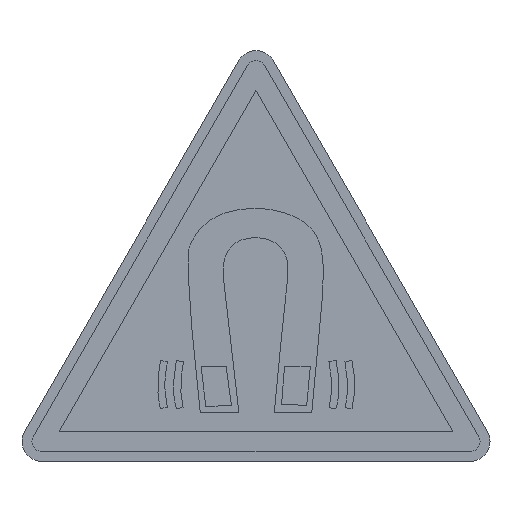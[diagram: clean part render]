
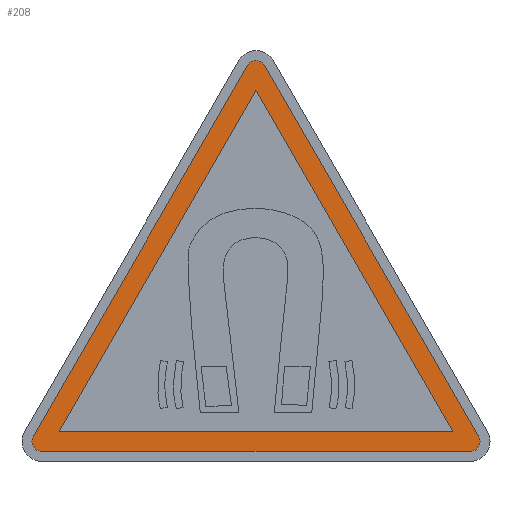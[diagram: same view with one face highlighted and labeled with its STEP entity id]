
A CAD part, top view. The second image highlights one B-rep face of the part: STEP entity #208.
In plain terms, the highlighted planar face has unit normal (0, 0, 1).
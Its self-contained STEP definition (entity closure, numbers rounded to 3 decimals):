
#84 = CARTESIAN_POINT ( 'NONE',  ( -0.866, 39.801, 0.22 ) ) ;
#89 = VERTEX_POINT ( 'NONE', #2185 ) ;
#130 = CARTESIAN_POINT ( 'NONE',  ( -21.536, 1., 0.22 ) ) ;
#150 = VERTEX_POINT ( 'NONE', #776 ) ;
#178 = CARTESIAN_POINT ( 'NONE',  ( 21.536, 2., 0.22 ) ) ;
#191 = VECTOR ( 'NONE', #410, 1000. ) ;
#208 = ADVANCED_FACE ( 'NONE', ( #1765, #1394 ), #612, .T. ) ;
#220 = DIRECTION ( 'NONE',  ( -0.5, 0.866, 0. ) ) ;
#301 = EDGE_CURVE ( 'NONE', #1290, #150, #506, .T. ) ;
#304 = ORIENTED_EDGE ( 'NONE', *, *, #1013, .F. ) ;
#317 = CARTESIAN_POINT ( 'NONE',  ( 22.402, 2.5, 0.22 ) ) ;
#331 = CIRCLE ( 'NONE', #1168, 1. ) ;
#410 = DIRECTION ( 'NONE',  ( -0.5, 0.866, 0. ) ) ;
#459 = CARTESIAN_POINT ( 'NONE',  ( 0., 37.301, 0.22 ) ) ;
#474 = LINE ( 'NONE', #130, #475 ) ;
#475 = VECTOR ( 'NONE', #2493, 1000. ) ;
#485 = CARTESIAN_POINT ( 'NONE',  ( -21.536, 1., 0.22 ) ) ;
#506 = LINE ( 'NONE', #1690, #1866 ) ;
#551 = ORIENTED_EDGE ( 'NONE', *, *, #2012, .T. ) ;
#601 = VERTEX_POINT ( 'NONE', #485 ) ;
#612 = PLANE ( 'NONE',  #2077 ) ;
#635 = DIRECTION ( 'NONE',  ( -0.5, -0.866, 0. ) ) ;
#639 = CARTESIAN_POINT ( 'NONE',  ( 0., 39.301, 0.22 ) ) ;
#707 = AXIS2_PLACEMENT_3D ( 'NONE', #178, #980, #2556 ) ;
#752 = DIRECTION ( 'NONE',  ( 0., 0., 1. ) ) ;
#776 = CARTESIAN_POINT ( 'NONE',  ( -22.402, 2.5, 0.22 ) ) ;
#780 = CIRCLE ( 'NONE', #2397, 1. ) ;
#786 = EDGE_CURVE ( 'NONE', #1881, #1290, #1547, .T. ) ;
#793 = CARTESIAN_POINT ( 'NONE',  ( 0.866, 39.801, 0.22 ) ) ;
#815 = ORIENTED_EDGE ( 'NONE', *, *, #301, .T. ) ;
#824 = DIRECTION ( 'NONE',  ( 0., 0., 1. ) ) ;
#874 = VERTEX_POINT ( 'NONE', #317 ) ;
#947 = EDGE_LOOP ( 'NONE', ( #2134, #815, #1308, #2504, #551, #1818, #1175 ) ) ;
#980 = DIRECTION ( 'NONE',  ( 0., 0., 1. ) ) ;
#994 = EDGE_CURVE ( 'NONE', #874, #1881, #2029, .T. ) ;
#1013 = EDGE_CURVE ( 'NONE', #89, #2478, #2237, .T. ) ;
#1020 = EDGE_CURVE ( 'NONE', #2050, #89, #1803, .T. ) ;
#1021 = CARTESIAN_POINT ( 'NONE',  ( -21.536, 2., 0.22 ) ) ;
#1024 = DIRECTION ( 'NONE',  ( 1., 0., 0. ) ) ;
#1046 = CARTESIAN_POINT ( 'NONE',  ( -19.804, 3., 0.22 ) ) ;
#1108 = CARTESIAN_POINT ( 'NONE',  ( 21.536, 1., 0.22 ) ) ;
#1168 = AXIS2_PLACEMENT_3D ( 'NONE', #1021, #824, #1623 ) ;
#1175 = ORIENTED_EDGE ( 'NONE', *, *, #994, .T. ) ;
#1189 = VERTEX_POINT ( 'NONE', #1965 ) ;
#1245 = CARTESIAN_POINT ( 'NONE',  ( 22.402, 2.5, 0.22 ) ) ;
#1290 = VERTEX_POINT ( 'NONE', #84 ) ;
#1308 = ORIENTED_EDGE ( 'NONE', *, *, #2330, .T. ) ;
#1384 = DIRECTION ( 'NONE',  ( 0., 0., 1. ) ) ;
#1394 = FACE_BOUND ( 'NONE', #2194, .T. ) ;
#1396 = DIRECTION ( 'NONE',  ( 1., 0., 0. ) ) ;
#1408 = CARTESIAN_POINT ( 'NONE',  ( 19.804, 3., 0.22 ) ) ;
#1421 = VERTEX_POINT ( 'NONE', #1108 ) ;
#1453 = DIRECTION ( 'NONE',  ( 0., 0., 1. ) ) ;
#1501 = VECTOR ( 'NONE', #1024, 1000. ) ;
#1508 = CIRCLE ( 'NONE', #707, 1. ) ;
#1547 = CIRCLE ( 'NONE', #2074, 1. ) ;
#1560 = DIRECTION ( 'NONE',  ( 1., 0., 0. ) ) ;
#1617 = CARTESIAN_POINT ( 'NONE',  ( 0., 39.301, 0.22 ) ) ;
#1623 = DIRECTION ( 'NONE',  ( 1., 0., 0. ) ) ;
#1659 = CARTESIAN_POINT ( 'NONE',  ( 19.804, 3., 0.22 ) ) ;
#1682 = ORIENTED_EDGE ( 'NONE', *, *, #1020, .F. ) ;
#1690 = CARTESIAN_POINT ( 'NONE',  ( -0.866, 39.801, 0.22 ) ) ;
#1765 = FACE_OUTER_BOUND ( 'NONE', #947, .T. ) ;
#1788 = EDGE_CURVE ( 'NONE', #1421, #874, #1508, .T. ) ;
#1803 = LINE ( 'NONE', #459, #2312 ) ;
#1818 = ORIENTED_EDGE ( 'NONE', *, *, #1788, .T. ) ;
#1866 = VECTOR ( 'NONE', #2248, 1000. ) ;
#1881 = VERTEX_POINT ( 'NONE', #793 ) ;
#1965 = CARTESIAN_POINT ( 'NONE',  ( -22.536, 2., 0.22 ) ) ;
#1968 = EDGE_CURVE ( 'NONE', #1189, #601, #331, .T. ) ;
#1982 = CARTESIAN_POINT ( 'NONE',  ( 0., 37.301, 0.22 ) ) ;
#1997 = VECTOR ( 'NONE', #220, 1000. ) ;
#2012 = EDGE_CURVE ( 'NONE', #601, #1421, #474, .T. ) ;
#2029 = LINE ( 'NONE', #1245, #1997 ) ;
#2048 = DIRECTION ( 'NONE',  ( 1., 0., 0. ) ) ;
#2050 = VERTEX_POINT ( 'NONE', #1982 ) ;
#2074 = AXIS2_PLACEMENT_3D ( 'NONE', #1617, #1384, #1396 ) ;
#2077 = AXIS2_PLACEMENT_3D ( 'NONE', #639, #1453, #2048 ) ;
#2134 = ORIENTED_EDGE ( 'NONE', *, *, #786, .T. ) ;
#2185 = CARTESIAN_POINT ( 'NONE',  ( -19.804, 3., 0.22 ) ) ;
#2194 = EDGE_LOOP ( 'NONE', ( #304, #1682, #2496 ) ) ;
#2237 = LINE ( 'NONE', #1046, #1501 ) ;
#2248 = DIRECTION ( 'NONE',  ( -0.5, -0.866, 0. ) ) ;
#2312 = VECTOR ( 'NONE', #635, 1000. ) ;
#2330 = EDGE_CURVE ( 'NONE', #150, #1189, #780, .T. ) ;
#2373 = LINE ( 'NONE', #1408, #191 ) ;
#2389 = EDGE_CURVE ( 'NONE', #2478, #2050, #2373, .T. ) ;
#2397 = AXIS2_PLACEMENT_3D ( 'NONE', #2528, #752, #1560 ) ;
#2478 = VERTEX_POINT ( 'NONE', #1659 ) ;
#2493 = DIRECTION ( 'NONE',  ( 1., 0., 0. ) ) ;
#2496 = ORIENTED_EDGE ( 'NONE', *, *, #2389, .F. ) ;
#2504 = ORIENTED_EDGE ( 'NONE', *, *, #1968, .T. ) ;
#2528 = CARTESIAN_POINT ( 'NONE',  ( -21.536, 2., 0.22 ) ) ;
#2556 = DIRECTION ( 'NONE',  ( 1., 0., 0. ) ) ;
